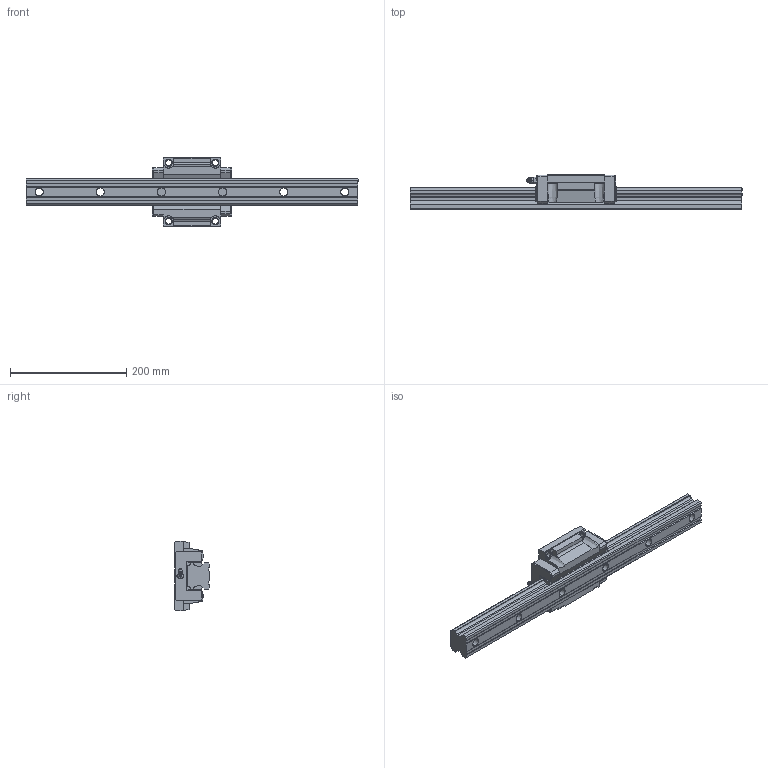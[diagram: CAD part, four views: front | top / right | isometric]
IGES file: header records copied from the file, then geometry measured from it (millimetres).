
Start section: SolidWorks IGES file using analytic representation for surfaces
Global section: file name: D:\Qsync\EOS Design B.V\Projecten\LM Systems\Models HSV\FINISHED\HSV45CSS.IGS; native system: SolidWorks 2016; preprocessor: SolidWorks 2016; author: EOS; date: 160314.144859; units: millimetre
Bounding box: 570 x 60 x 120 mm (x, y, z)
Surface area: 172595.6 mm2 (no closed solid volume)
Topology: 0 solids, 0 shells, 301 faces, 3469 edges, 3463 vertices
Faces by surface type: bspline 211, revolution 90
